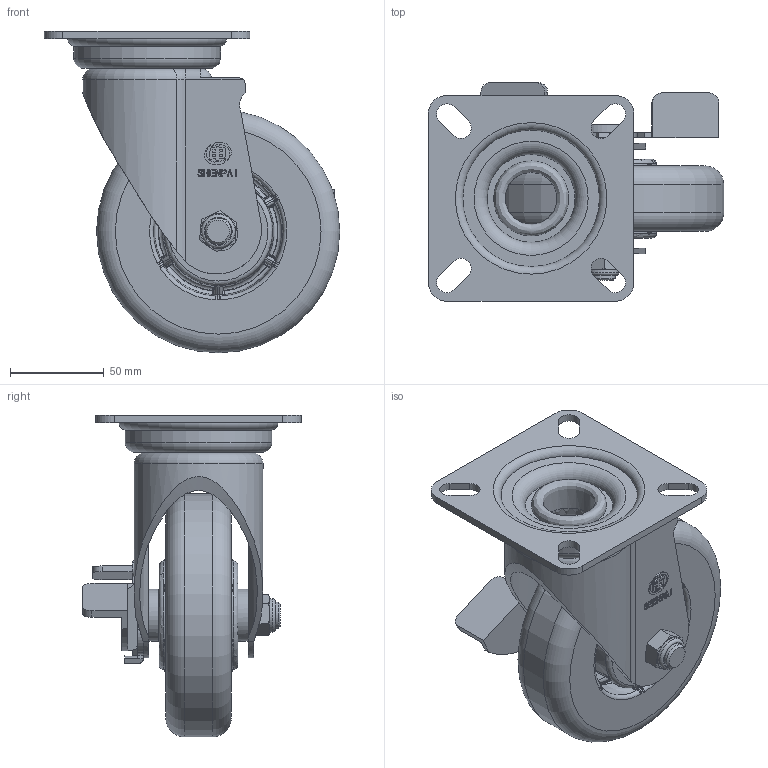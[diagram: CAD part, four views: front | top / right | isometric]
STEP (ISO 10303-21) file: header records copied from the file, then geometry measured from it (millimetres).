
FILE_DESCRIPTION(/* description */ (''),/* implementation_level */ '2;1');
FILE_NAME(/* name */ '25A73_5_F.stp',/* time_stamp */ '2022-10-06T15:44:57+08:00',/* author */ (''),/* organization */ (''),/* preprocessor_version */ 'ST-DEVELOPER v14',/* originating_system */ 'SIEMENS PLM Software NX 8.0',/* authorisation */ '');
FILE_SCHEMA (('AUTOMOTIVE_DESIGN { 1 0 10303 214 3 1 1 1 }'));
Length unit declared in the file: millimetre
Products named in the file (1): 25A73_5_F
Bounding box: 158 x 116.96 x 172 mm (x, y, z)
Volume: 581306.8 mm3; surface area: 167952.3 mm2
Topology: 3 solids, 4 shells, 883 faces, 2217 edges, 1382 vertices
Faces by surface type: plane 360, bspline 239, cylinder 164, torus 56, cone 55, revolution 4, sphere 4, extrusion 1
Full cylindrical faces by diameter (mm): 14 x1, 15 x2, 17 x1, 18 x1, 20.5 x2, 24.188 x3, 27 x1, 28 x2, 32.8 x1, 32.812 x2, 37.5 x1, 39.85 x2, 40 x2, 43.2 x1, 43.3 x1, 73.5 x1, 78.5 x1, 130 x1
Entity records: 29412 total; most frequent: CARTESIAN_POINT 10647, ORIENTED_EDGE 4224, DIRECTION 3344, EDGE_CURVE 2112, VERTEX_POINT 1345, AXIS2_PLACEMENT_3D 1329, EDGE_LOOP 1017, ADVANCED_FACE 882
